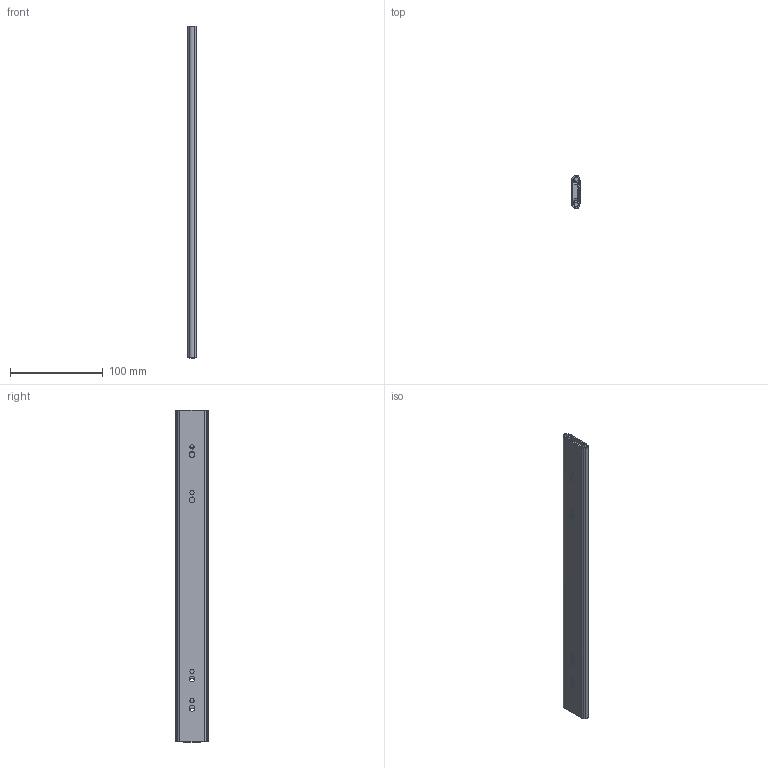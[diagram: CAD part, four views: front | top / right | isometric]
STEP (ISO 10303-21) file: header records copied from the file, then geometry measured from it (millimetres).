
FILE_DESCRIPTION(/* description */ (''),/* implementation_level */ '2;1');
FILE_NAME(/* name */ '\\NAS\db20\L2-350\DR_L2-350.stp',/* time_stamp */ '2017-09-28T10:48:02+09:00',/* author */ ('user'),/* organization */ (''),/* preprocessor_version */ 'ST-DEVELOPER v15.6',/* originating_system */ 'Autodesk Inventor 2015',/* authorisation */ '');
FILE_SCHEMA (('AUTOMOTIVE_DESIGN { 1 0 10303 214 3 1 1 }'));
Length unit declared in the file: millimetre
Products named in the file (1): DR_L2-350
Bounding box: 9.55 x 35.3 x 357 mm (x, y, z)
Volume: 50736.4 mm3; surface area: 72935.7 mm2
Topology: 3 solids, 3 shells, 117 faces, 328 edges, 218 vertices
Faces by surface type: plane 63, cylinder 54
Full cylindrical faces by diameter (mm): 4.5 x13, 6.3 x4
Entity records: 3829 total; most frequent: CARTESIAN_POINT 657, DIRECTION 653, ORIENTED_EDGE 622, EDGE_CURVE 311, AXIS2_PLACEMENT_3D 226, VERTEX_POINT 218, LINE 201, VECTOR 201
